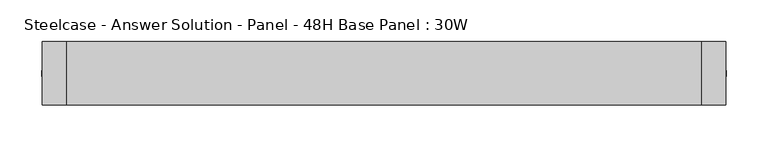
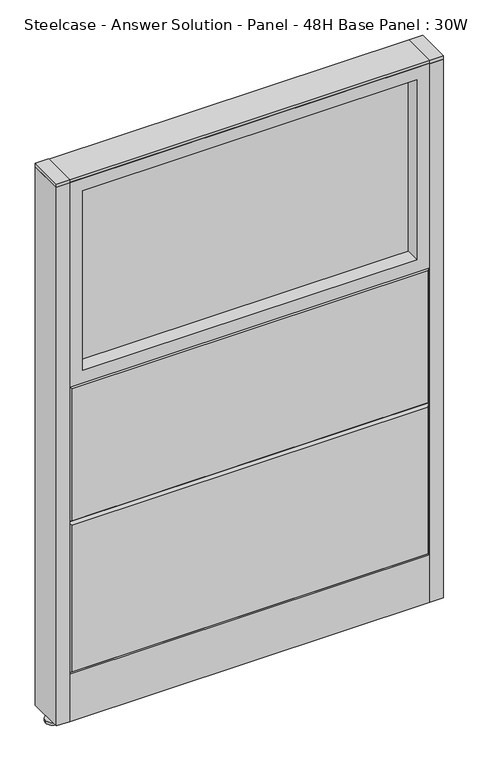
"""IFC4 building model written with IfcOpenShell, lengths in millimetres: furniture geometry, Steelcase - Answer Solution - Panel - 48H Base Panel : 30W."""

from ifc_helpers import new_model, si_unit, point, frame, frame_2d, origin, place, context, project, spatial, polyline, circle_curve, trimmed, segment, composite_curve, outline, extrude, faceted_brep, source, transform, mapped, element, save


def steelcase_answer_solution_panel_48h_base_panel_30w_67fad63e(model_context):
    return source(origin(), model_context, "Body", "SolidModel", [
        extrude(outline(composite_curve([segment(trimmed(circle_curve(frame_2d((395.224, 0.0320214)), 5.08), [point((400.304, 0.0320214))], [point((390.144, 0.0320214))], False, "CARTESIAN"), True, "CONTINUOUS"), segment(trimmed(circle_curve(frame_2d((395.224, 0.0320214)), 5.08), [point((390.144, 0.0320214))], [point((400.304, 0.0320214))], False, "CARTESIAN"), True, "CONTINUOUS")], self_intersect=False)), frame((0.0, 0.0, 5.0799671), z_axis=(0.0, 0.0, 1.0), x_axis=(1.0, 0.0, 0.0)), (0.0, 0.0, 1.0), 10.414),
        extrude(outline(composite_curve([segment(trimmed(circle_curve(frame_2d((395.224, 0.0320214)), 15.24), [point((410.464, 0.0320214))], [point((379.984, 0.0320214))], False, "CARTESIAN"), True, "CONTINUOUS"), segment(trimmed(circle_curve(frame_2d((395.224, 0.0320214)), 15.24), [point((379.984, 0.0320214))], [point((410.464, 0.0320214))], False, "CARTESIAN"), True, "CONTINUOUS")], self_intersect=False)), frame((0.0, 0.0, -3.29e-05), z_axis=(0.0, 0.0, 1.0), x_axis=(1.0, 0.0, 0.0)), (0.0, 0.0, 1.0), 5.08),
        extrude(outline(polyline([(409.575, 38.1320408), (409.575, -38.0679592), (381.0, -38.0679592), (381.0, 38.1320408), (409.575, 38.1320408)])), frame((0.0, 0.0, 1218.2348), z_axis=(0.0, 0.0, 1.0), x_axis=(1.0, 0.0, 0.0)), (0.0, 0.0, 1.0), 7.3151671),
        extrude(outline(polyline([(409.575, 38.1320408), (409.575, -38.0679592), (381.0, -38.0679592), (381.0, 38.1320408), (409.575, 38.1320408)])), frame((0.0, 0.0, 15.4939671), z_axis=(0.0, 0.0, 1.0), x_axis=(1.0, 0.0, 0.0)), (0.0, 0.0, 1.0), 1202.7408329),
        extrude(outline(composite_curve([segment(trimmed(circle_curve(frame_2d((-395.224, 0.0320214)), 5.08), [point((-400.304, 0.0320214))], [point((-390.144, 0.0320214))], False, "CARTESIAN"), True, "CONTINUOUS"), segment(trimmed(circle_curve(frame_2d((-395.224, 0.0320214)), 5.08), [point((-390.144, 0.0320214))], [point((-400.304, 0.0320214))], False, "CARTESIAN"), True, "CONTINUOUS")], self_intersect=False)), frame((0.0, 0.0, 5.0799671), z_axis=(0.0, 0.0, 1.0), x_axis=(1.0, 0.0, 0.0)), (0.0, 0.0, 1.0), 10.414),
        extrude(outline(composite_curve([segment(trimmed(circle_curve(frame_2d((-395.224, 0.0320214)), 15.24), [point((-410.464, 0.0320214))], [point((-379.984, 0.0320214))], False, "CARTESIAN"), True, "CONTINUOUS"), segment(trimmed(circle_curve(frame_2d((-395.224, 0.0320214)), 15.24), [point((-379.984, 0.0320214))], [point((-410.464, 0.0320214))], False, "CARTESIAN"), True, "CONTINUOUS")], self_intersect=False)), frame((0.0, 0.0, -3.29e-05), z_axis=(0.0, 0.0, 1.0), x_axis=(1.0, 0.0, 0.0)), (0.0, 0.0, 1.0), 5.08),
        extrude(outline(polyline([(-409.575, 38.1320408), (-381.0, 38.1320408), (-381.0, -38.0679592), (-409.575, -38.0679592), (-409.575, 38.1320408)])), frame((0.0, 0.0, 1218.2348), z_axis=(0.0, 0.0, 1.0), x_axis=(1.0, 0.0, 0.0)), (0.0, 0.0, 1.0), 7.3151671),
        extrude(outline(polyline([(-409.575, 38.1320408), (-381.0, 38.1320408), (-381.0, -38.0679592), (-409.575, -38.0679592), (-409.575, 38.1320408)])), frame((0.0, 0.0, 15.4939671), z_axis=(0.0, 0.0, 1.0), x_axis=(1.0, 0.0, 0.0)), (0.0, 0.0, 1.0), 1202.7408329),
        extrude(outline(polyline([(-353.06, 6.346049), (353.06, 6.346049), (353.06, -6.353951), (-353.06, -6.353951), (-353.06, 6.346049)])), frame((0.0, 0.0, 789.94), z_axis=(0.0, 0.0, 1.0), x_axis=(1.0, 0.0, 0.0)), (0.0, 0.0, 1.0), 401.32),
        extrude(outline(polyline([(1219.2, -381.0), (762.0, -381.0), (762.0, 381.0), (1219.2, 381.0), (1219.2, -381.0)]), holes=[polyline([(1191.26, -353.06), (1191.26, 353.06), (789.94, 353.06), (789.94, -353.06), (1191.26, -353.06)])]), frame((0.0, -38.103951, 0.0), z_axis=(0.0, 1.0, 0.0), x_axis=(0.0, 0.0, 1.0)), (0.0, 0.0, 1.0), 76.2),
        faceted_brep([(-376.174, 38.1635011, 757.174), (376.174, 38.1635011, 757.174), (376.174, 38.1635011, 462.026), (-376.174, 38.1635011, 462.026), (-381.0, 33.3375011, 762.0), (-381.0, 33.3375011, 457.2), (381.0, 33.3375011, 457.2), (381.0, 33.3375011, 762.0)], [[[0, 1, 2, 3]], [[4, 5, 6, 7]], [[4, 7, 1, 0]], [[7, 6, 2, 1]], [[6, 5, 3, 2]], [[5, 4, 0, 3]]]),
        faceted_brep([(-376.174, 38.1635011, 452.374), (376.174, 38.1635011, 452.374), (376.174, 38.1635011, 125.476), (-376.174, 38.1635011, 125.476), (-381.0, 33.3375011, 457.2), (-381.0, 33.3375011, 120.65), (381.0, 33.3375011, 120.65), (381.0, 33.3375011, 457.2)], [[[0, 1, 2, 3]], [[4, 5, 6, 7]], [[4, 7, 1, 0]], [[7, 6, 2, 1]], [[6, 5, 3, 2]], [[5, 4, 0, 3]]]),
        extrude(outline(polyline([(353.06, -6.346049), (-353.06, -6.346049), (-353.06, 6.353951), (353.06, 6.353951), (353.06, -6.346049)])), frame((0.0, 0.0, 789.94), z_axis=(0.0, 0.0, 1.0), x_axis=(1.0, 0.0, 0.0)), (0.0, 0.0, 1.0), 401.32),
        extrude(outline(polyline([(1219.2, 381.0), (1219.2, -381.0), (762.0, -381.0), (762.0, 381.0), (1219.2, 381.0)]), holes=[polyline([(1191.26, 353.06), (789.94, 353.06), (789.94, -353.06), (1191.26, -353.06), (1191.26, 353.06)])]), frame((0.0, -38.096049, 0.0), z_axis=(0.0, 1.0, 0.0), x_axis=(0.0, 0.0, 1.0)), (0.0, 0.0, 1.0), 76.2),
        faceted_brep([(376.174, -38.1635011, 757.174), (-376.174, -38.1635011, 757.174), (-376.174, -38.1635011, 462.026), (376.174, -38.1635011, 462.026), (381.0, -33.3375011, 762.0), (381.0, -33.3375011, 457.2), (-381.0, -33.3375011, 457.2), (-381.0, -33.3375011, 762.0)], [[[0, 1, 2, 3]], [[4, 5, 6, 7]], [[4, 7, 1, 0]], [[7, 6, 2, 1]], [[6, 5, 3, 2]], [[5, 4, 0, 3]]]),
        faceted_brep([(376.174, -38.1635011, 452.374), (-376.174, -38.1635011, 452.374), (-376.174, -38.1635011, 125.476), (376.174, -38.1635011, 125.476), (381.0, -33.3375011, 457.2), (381.0, -33.3375011, 120.65), (-381.0, -33.3375011, 120.65), (-381.0, -33.3375011, 457.2)], [[[0, 1, 2, 3]], [[4, 5, 6, 7]], [[4, 7, 1, 0]], [[7, 6, 2, 1]], [[6, 5, 3, 2]], [[5, 4, 0, 3]]]),
        extrude(outline(polyline([(381.0, 38.1000194), (381.0, -38.1000194), (-381.0, -38.1000194), (-381.0, 38.1000194), (381.0, 38.1000194)])), frame((0.0, 0.0, 1219.2), z_axis=(0.0, 0.0, 1.0), x_axis=(1.0, 0.0, 0.0)), (0.0, 0.0, 1.0), 6.35),
        extrude(outline(polyline([(25.4000011, 119.8575157), (25.4000011, 120.65), (38.1000194, 120.65), (38.1000194, 15.494), (37.3075215, 15.494), (37.3075215, 119.8575157), (25.4000011, 119.8575157)])), frame((-381.0, 0.0, 0.0), z_axis=(1.0, 0.0, 0.0), x_axis=(0.0, 1.0, 0.0)), (0.0, 0.0, 1.0), 762.0),
        extrude(outline(polyline([(-25.4000011, 119.8575157), (-37.3075215, 119.8575157), (-37.3075215, 15.494), (-38.1000194, 15.494), (-38.1000194, 120.65), (-25.4000011, 120.65), (-25.4000011, 119.8575157)])), frame((-381.0, 0.0, 0.0), z_axis=(1.0, 0.0, 0.0), x_axis=(0.0, 1.0, 0.0)), (0.0, 0.0, 1.0), 762.0),
    ])


if __name__ == "__main__":
    model = new_model("IFC4")
    model_context = context("Model", 3, world=origin())
    ifc_project = project(units=[si_unit("LENGTHUNIT", "METRE", prefix="MILLI")], contexts=[model_context])
    site = spatial("IfcSite", under=ifc_project)
    building = spatial("IfcBuilding", under=site)
    placement = place(None, origin())
    steelcase_answer_solution_panel_48h_base_panel_30w_shape = steelcase_answer_solution_panel_48h_base_panel_30w_67fad63e(model_context)
    element("IfcFurniture", 1, ObjectType="Steelcase - Answer Solution - Panel - 48H Base Panel : 30W", at=placement, inside=building, context=model_context, shape_type="MappedRepresentation", body=[
        mapped(steelcase_answer_solution_panel_48h_base_panel_30w_shape, transform((0.0, 0.0, 0.0), x_axis=(1.0, 0.0, 0.0), y_axis=(0.0, 1.0, 0.0), z_axis=(0.0, 0.0, 1.0))),
    ])
    save(model, "model.ifc")
